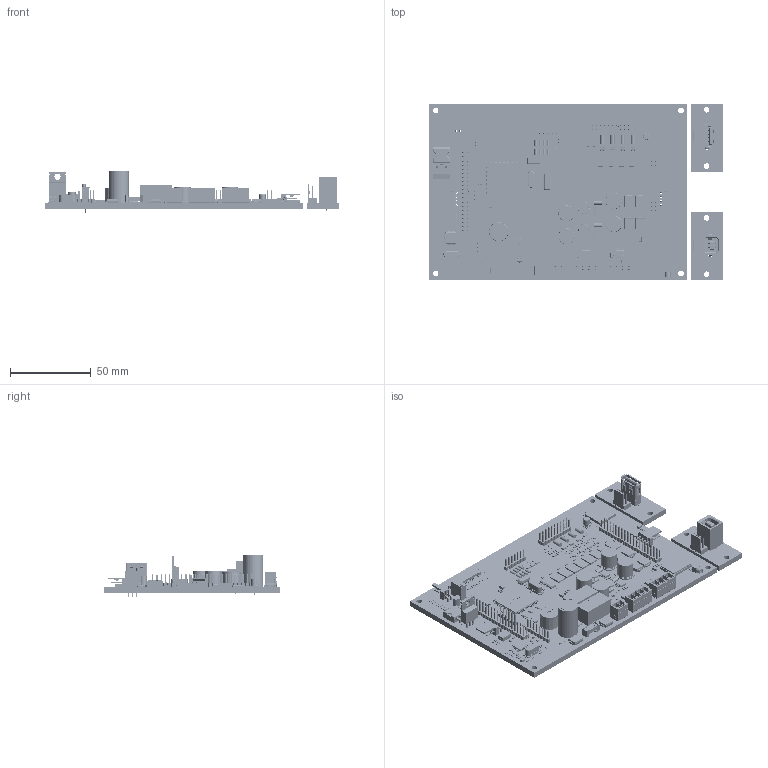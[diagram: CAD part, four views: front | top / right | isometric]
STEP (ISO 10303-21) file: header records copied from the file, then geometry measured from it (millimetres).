
FILE_DESCRIPTION(('Open CASCADE Model'),'2;1');
FILE_NAME('Open CASCADE Shape Model','2013-03-25T12:04:36',('Author'),( 'Open CASCADE'),'Open CASCADE STEP processor 6.2','Open CASCADE 6.2' ,'Unknown');
FILE_SCHEMA(('AUTOMOTIVE_DESIGN { 1 0 10303 214 1 1 1 1 }'));
Length unit declared in the file: millimetre
Products named in the file (425): PCB; Board; X3; HC49_SMD-A-42; X2; SW3dPS-ZM206; X1; U16; LQFP48-7X7; U15; FT232RQ; User_Library-FT232RQ(AP214)-1_K_X_F6rper_1; User_Library-FT232RQ(AP214)-1_Beschriftung_1; User_Library-FT232RQ(AP214)-1_Anscl_X_FCsse_1; 991638752; Extruded; U14; 991637856; U13; U12; U11; U10; U9; U8; U7; SO16; U6; U5; SO8; U4; U3; LQFP-144; Open CASCADE STEP translator 6.2 1.18.1.1; Open CASCADE STEP translator 6.2 1.18.1.2; U2; U1; LCD-SPR2; 983610800; Cylinder; LCD-SPR1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
Assembly tree (744 placements, depth 4):
  PCB
    Board
    X3
      HC49_SMD-A-42
    X2
      SW3dPS-ZM206
    X1
      HC49_SMD-A-42
    U16
      LQFP48-7X7
    U15
      FT232RQ
        User_Library-FT232RQ(AP214)-1_K_X_F6rper_1
        User_Library-FT232RQ(AP214)-1_Beschriftung_1
        User_Library-FT232RQ(AP214)-1_Anscl_X_FCsse_1
      991638752
        Extruded
    U14
      991637856
        Extruded
    U13
      991637856
        Extruded
    U12
      991637856
        Extruded
    U11
      991637856
        Extruded
    U10
      991637856
        Extruded
    U9
      991637856
        Extruded
    U8
      991637856
        Extruded
    U7
      SO16
    U6
      991637856
        Extruded
    U5
      SO8
    U4
      SO8
    U3
      LQFP-144
        Open CASCADE STEP translator 6.2 1.18.1.1
        Open CASCADE STEP translator 6.2 1.18.1.2
    U2
      SO8
    U1
      SO8
    LCD-SPR2
      983610800
        Cylinder
    LCD-SPR1
      983610800
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Bounding box: 182 x 109 x 26.5 mm (x, y, z)
Volume: 92260 mm3; surface area: 77593.4 mm2
Topology: 601 solids, 2686 shells, 24627 faces, 64721 edges, 44067 vertices
Faces by surface type: plane 17122, bspline 4620, cylinder 2378, sphere 328, extrusion 68, torus 59, cone 52
Full cylindrical faces by diameter (mm): 0.7 x5, 0.8 x10, 0.9 x4, 1 x157, 1.2 x23, 2.3 x2, 2.5 x2, 3.5 x8, 10 x1, 12.6 x1
Entity records: 765024 total; most frequent: CARTESIAN_POINT 251619, DIRECTION 63145, ORIENTED_EDGE 46976, PCURVE 46976, DEFINITIONAL_REPRESENTATION 46976, VECTOR 41940, LINE 41906, EDGE_CURVE 27194
